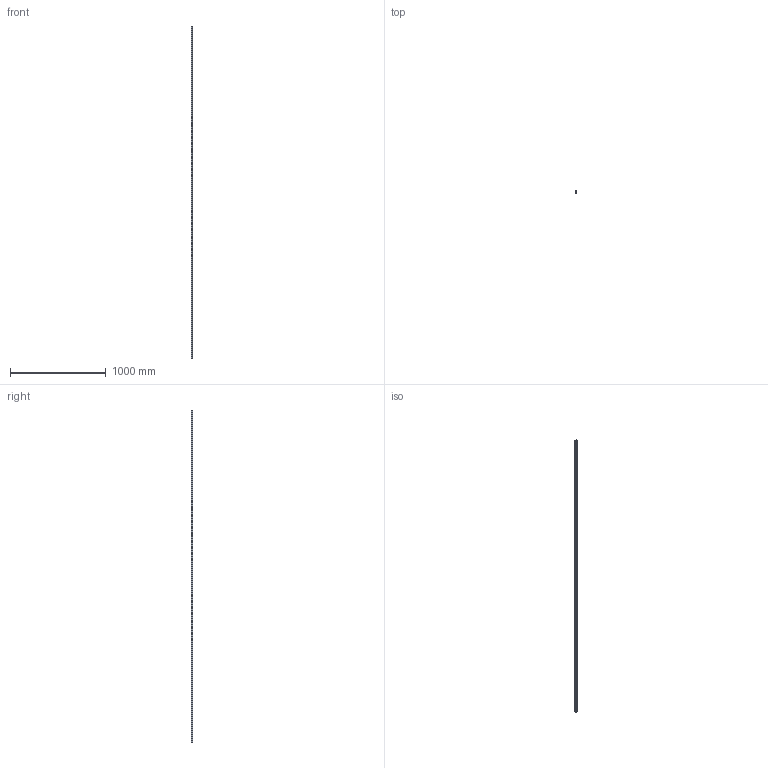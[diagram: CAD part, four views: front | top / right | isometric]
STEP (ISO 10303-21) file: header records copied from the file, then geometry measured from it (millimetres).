
FILE_DESCRIPTION (( 'STEP AP203' ), '1' );
FILE_NAME ('L1016.BL20-3460.step', '2019-06-12T11:57:11', ( '' ), ( '' ), 'SwSTEP 2.0', 'SolidWorks 2017', '' );
FILE_SCHEMA (( 'CONFIG_CONTROL_DESIGN' ));
Length unit declared in the file: millimetre
Products named in the file (1): L1016.BL20-3460
Bounding box: 20 x 16.3 x 3460 mm (x, y, z)
Volume: 961830.3 mm3; surface area: 278186.6 mm2
Topology: 1 solids, 1 shells, 316 faces, 768 edges, 512 vertices
Faces by surface type: cylinder 236, plane 80
Entity records: 9833 total; most frequent: DIRECTION 1874, CARTESIAN_POINT 1597, ORIENTED_EDGE 1536, AXIS2_PLACEMENT_3D 789, EDGE_CURVE 768, VERTEX_POINT 512, EDGE_LOOP 490, CIRCLE 472
